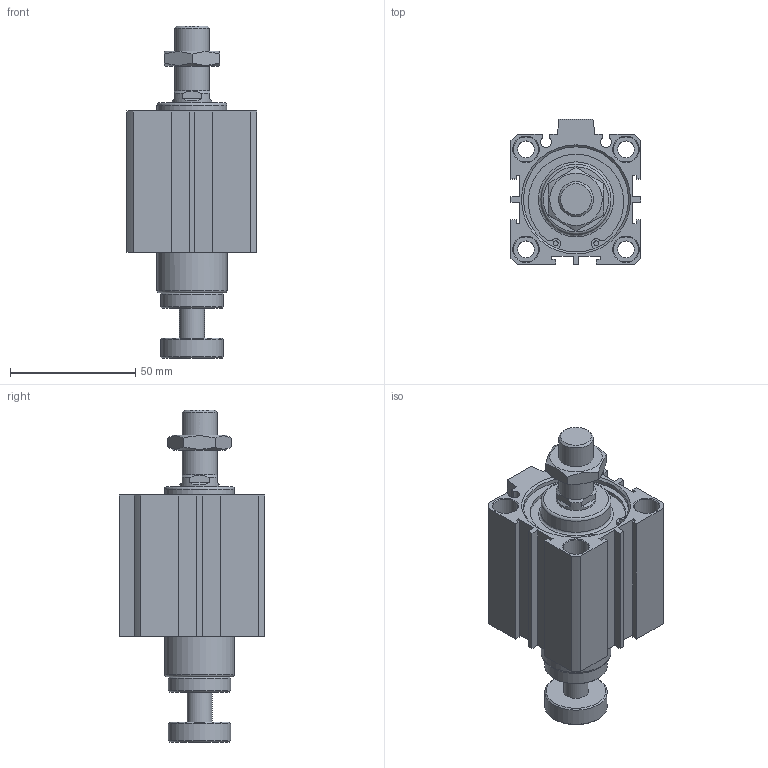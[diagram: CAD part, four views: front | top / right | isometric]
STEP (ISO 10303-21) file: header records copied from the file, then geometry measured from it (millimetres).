
FILE_DESCRIPTION((''),'2;1');
FILE_NAME('I:\3D電子目錄\氣缸\JDAR\JDAR-BS\JDAR40-BS\JDAR40x20-BS.stp','2007-05-05T14:13:06',('662F206'),(''),'Autodesk Inventor 11','Autodesk Inventor 11','');
FILE_SCHEMA(('AUTOMOTIVE_DESIGN { 1 0 10303 214 1 1 1 1 }'));
Length unit declared in the file: millimetre
Products named in the file (3): JDAR40-BS; R 形環 42
Assembly tree (3 placements, depth 2):
  JDAR40-BS
    JDAR40-BS
    R 形環 42  x2
Bounding box: 52 x 58 x 132.8 mm (x, y, z)
Volume: 154562 mm3; surface area: 37936.1 mm2
Topology: 3 solids, 3 shells, 179 faces, 418 edges, 271 vertices
Faces by surface type: plane 100, cylinder 50, cone 25, bspline 2, torus 2
Full cylindrical faces by diameter (mm): 1.9 x4, 2.2 x2, 6.8 x4, 10 x9, 14 x2, 16 x1, 25 x2, 28 x2, 42 x4, 44.5 x2
Entity records: 4585 total; most frequent: CARTESIAN_POINT 873, DIRECTION 770, ORIENTED_EDGE 654, EDGE_CURVE 327, AXIS2_PLACEMENT_3D 292, EDGE_LOOP 260, VERTEX_POINT 245, VECTOR 186
